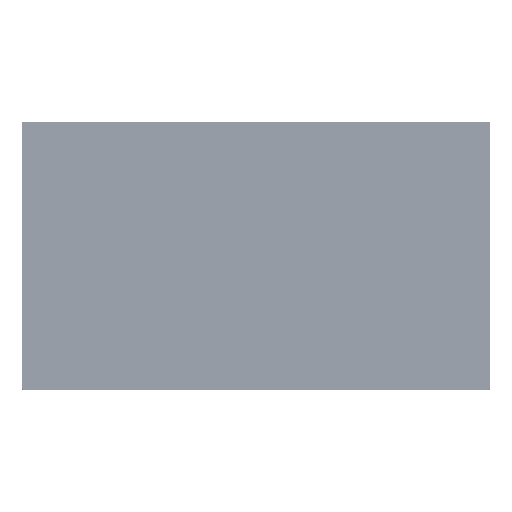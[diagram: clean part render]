
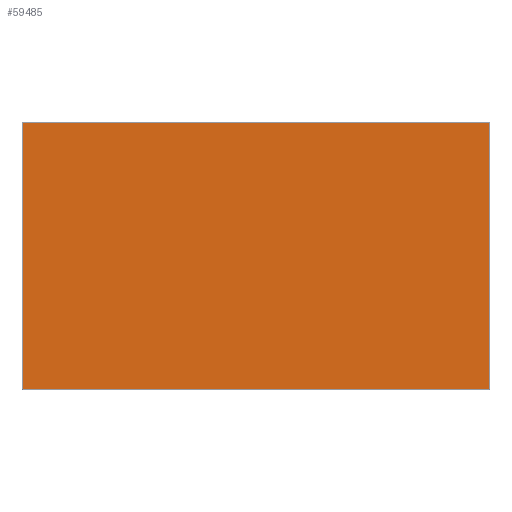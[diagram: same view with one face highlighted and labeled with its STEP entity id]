
A CAD part, top view. The second image highlights one B-rep face of the part: STEP entity #59485.
In plain terms, the highlighted planar face has unit normal (0, 0, 1) as drawn and (0, 0, -1) by its records, which use the part's own axes.
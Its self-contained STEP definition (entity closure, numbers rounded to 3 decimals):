
#7733 = CARTESIAN_POINT ( 'NONE',  ( -1125.65, 641.3, 0. ) ) ;
#20233 = ORIENTED_EDGE ( 'NONE', *, *, #236300, .F. ) ;
#28673 = VERTEX_POINT ( 'NONE', #238274 ) ;
#28941 = VECTOR ( 'NONE', #215332, 1000. ) ;
#41896 = VERTEX_POINT ( 'NONE', #276826 ) ;
#48490 = VERTEX_POINT ( 'NONE', #391682 ) ;
#50544 = ORIENTED_EDGE ( 'NONE', *, *, #310228, .T. ) ;
#58701 = DIRECTION ( 'NONE',  ( 0., -1., 0. ) ) ;
#59485 = ADVANCED_FACE ( 'NONE', ( #213459 ), #151548, .F. ) ;
#60536 = CARTESIAN_POINT ( 'NONE',  ( 1125.65, 641.3, 0. ) ) ;
#60902 = DIRECTION ( 'NONE',  ( 0.707, -0.707, 0. ) ) ;
#62751 = CARTESIAN_POINT ( 'NONE',  ( -1125.65, 642.3, 0. ) ) ;
#65866 = DIRECTION ( 'NONE',  ( -0.707, -0.707, 0. ) ) ;
#66414 = EDGE_CURVE ( 'NONE', #67855, #41896, #186479, .T. ) ;
#67855 = VERTEX_POINT ( 'NONE', #132488 ) ;
#70296 = EDGE_CURVE ( 'NONE', #163729, #226700, #114532, .T. ) ;
#76527 = DIRECTION ( 'NONE',  ( 1., 0., 0. ) ) ;
#80446 = LINE ( 'NONE', #280710, #115812 ) ;
#84716 = CARTESIAN_POINT ( 'NONE',  ( -1125.65, 642.3, 0. ) ) ;
#87749 = ORIENTED_EDGE ( 'NONE', *, *, #275271, .F. ) ;
#90032 = ORIENTED_EDGE ( 'NONE', *, *, #267961, .F. ) ;
#94368 = ORIENTED_EDGE ( 'NONE', *, *, #121256, .T. ) ;
#96765 = CARTESIAN_POINT ( 'NONE',  ( 1124.65, 642.3, 0. ) ) ;
#100041 = ORIENTED_EDGE ( 'NONE', *, *, #286933, .T. ) ;
#114532 = LINE ( 'NONE', #170436, #120530 ) ;
#115812 = VECTOR ( 'NONE', #76527, 1000. ) ;
#120530 = VECTOR ( 'NONE', #326063, 1000. ) ;
#120794 = LINE ( 'NONE', #96765, #344824 ) ;
#121256 = EDGE_CURVE ( 'NONE', #48490, #41896, #183413, .T. ) ;
#123604 = CARTESIAN_POINT ( 'NONE',  ( 0., 0., 0. ) ) ;
#132488 = CARTESIAN_POINT ( 'NONE',  ( 1124.65, 642.3, 0. ) ) ;
#139819 = CARTESIAN_POINT ( 'NONE',  ( 1124.65, -642.3, 0. ) ) ;
#143341 = ORIENTED_EDGE ( 'NONE', *, *, #70296, .T. ) ;
#150815 = CARTESIAN_POINT ( 'NONE',  ( -1125.65, -641.3, 0. ) ) ;
#151381 = VECTOR ( 'NONE', #184515, 1000. ) ;
#151548 = PLANE ( 'NONE',  #204901 ) ;
#163729 = VERTEX_POINT ( 'NONE', #389046 ) ;
#170436 = CARTESIAN_POINT ( 'NONE',  ( -1124.65, -642.3, 0. ) ) ;
#170909 = VERTEX_POINT ( 'NONE', #60536 ) ;
#183413 = LINE ( 'NONE', #7733, #28941 ) ;
#183485 = DIRECTION ( 'NONE',  ( 1., 0., 0. ) ) ;
#184515 = DIRECTION ( 'NONE',  ( -1., 0., 0. ) ) ;
#186479 = LINE ( 'NONE', #62751, #151381 ) ;
#191794 = VECTOR ( 'NONE', #230492, 1000. ) ;
#204901 = AXIS2_PLACEMENT_3D ( 'NONE', #123604, #335161, #183485 ) ;
#210379 = VECTOR ( 'NONE', #65866, 1000. ) ;
#213459 = FACE_OUTER_BOUND ( 'NONE', #318542, .T. ) ;
#215332 = DIRECTION ( 'NONE',  ( 0.707, 0.707, 0. ) ) ;
#226700 = VERTEX_POINT ( 'NONE', #150815 ) ;
#230492 = DIRECTION ( 'NONE',  ( 0., 1., 0. ) ) ;
#236300 = EDGE_CURVE ( 'NONE', #48490, #226700, #272213, .T. ) ;
#238274 = CARTESIAN_POINT ( 'NONE',  ( 1125.65, -641.3, 0. ) ) ;
#245229 = ORIENTED_EDGE ( 'NONE', *, *, #66414, .F. ) ;
#267961 = EDGE_CURVE ( 'NONE', #28673, #170909, #326175, .T. ) ;
#272213 = LINE ( 'NONE', #84716, #303597 ) ;
#275271 = EDGE_CURVE ( 'NONE', #163729, #375402, #80446, .T. ) ;
#276826 = CARTESIAN_POINT ( 'NONE',  ( -1124.65, 642.3, 0. ) ) ;
#280710 = CARTESIAN_POINT ( 'NONE',  ( 1125.65, -642.3, 0. ) ) ;
#286933 = EDGE_CURVE ( 'NONE', #67855, #170909, #120794, .T. ) ;
#290311 = CARTESIAN_POINT ( 'NONE',  ( 1125.65, -642.3, 0. ) ) ;
#303597 = VECTOR ( 'NONE', #58701, 1000. ) ;
#310228 = EDGE_CURVE ( 'NONE', #28673, #375402, #315155, .T. ) ;
#315155 = LINE ( 'NONE', #345149, #210379 ) ;
#318542 = EDGE_LOOP ( 'NONE', ( #87749, #143341, #20233, #94368, #245229, #100041, #90032, #50544 ) ) ;
#326063 = DIRECTION ( 'NONE',  ( -0.707, 0.707, 0. ) ) ;
#326175 = LINE ( 'NONE', #290311, #191794 ) ;
#335161 = DIRECTION ( 'NONE',  ( 0., 0., 1. ) ) ;
#344824 = VECTOR ( 'NONE', #60902, 1000. ) ;
#345149 = CARTESIAN_POINT ( 'NONE',  ( 1125.65, -641.3, 0. ) ) ;
#375402 = VERTEX_POINT ( 'NONE', #139819 ) ;
#389046 = CARTESIAN_POINT ( 'NONE',  ( -1124.65, -642.3, 0. ) ) ;
#391682 = CARTESIAN_POINT ( 'NONE',  ( -1125.65, 641.3, 0. ) ) ;
